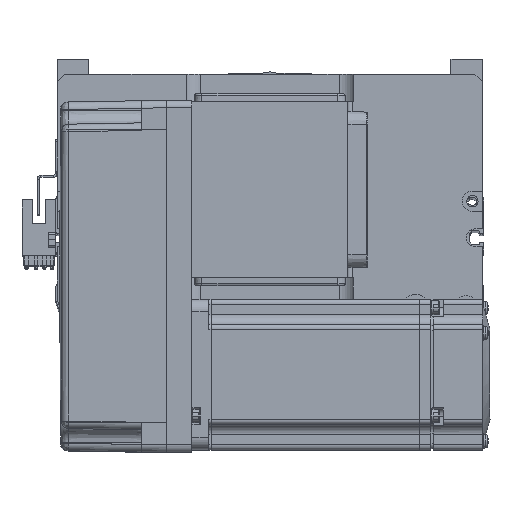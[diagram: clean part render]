
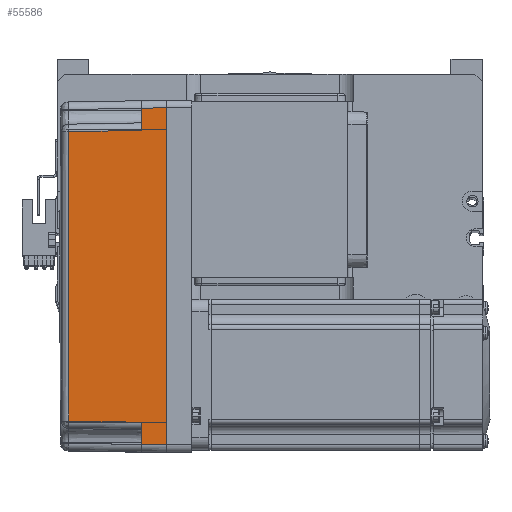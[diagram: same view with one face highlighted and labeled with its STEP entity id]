
A CAD part, top view. The second image highlights one B-rep face of the part: STEP entity #55586.
In plain terms, the highlighted planar face has unit normal (-0.018, 0, 1) as drawn and (0, -1, 0.017) by its records, which use the part's own axes.
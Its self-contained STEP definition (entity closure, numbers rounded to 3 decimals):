
#180 = VERTEX_POINT ( 'NONE', #2051 ) ;
#183 = CARTESIAN_POINT ( 'NONE',  ( 70., -35.825, 10. ) ) ;
#502 = EDGE_CURVE ( 'NONE', #51117, #20415, #5523, .T. ) ;
#701 = CARTESIAN_POINT ( 'NONE',  ( -19.165, -35.316, 39.181 ) ) ;
#2051 = CARTESIAN_POINT ( 'NONE',  ( -57.495, -35.32, 38.985 ) ) ;
#2182 = LINE ( 'NONE', #35607, #16303 ) ;
#3591 = EDGE_CURVE ( 'NONE', #41798, #51117, #38684, .T. ) ;
#3615 = VERTEX_POINT ( 'NONE', #51667 ) ;
#4750 = EDGE_CURVE ( 'NONE', #32443, #20415, #46712, .T. ) ;
#5523 = LINE ( 'NONE', #33133, #28531 ) ;
#6090 = CARTESIAN_POINT ( 'NONE',  ( 70., -35.825, 10. ) ) ;
#10465 = CARTESIAN_POINT ( 'NONE',  ( 57.495, -35.32, 38.985 ) ) ;
#11274 = CARTESIAN_POINT ( 'NONE',  ( 67., -36., 0. ) ) ;
#11442 = LINE ( 'NONE', #22060, #44841 ) ;
#12063 = DIRECTION ( 'NONE',  ( -0.017, -0.017, -1. ) ) ;
#12569 = AXIS2_PLACEMENT_3D ( 'NONE', #39771, #44365, #25445 ) ;
#13788 = ORIENTED_EDGE ( 'NONE', *, *, #58261, .T. ) ;
#16303 = VECTOR ( 'NONE', #46220, 1000. ) ;
#17653 = CARTESIAN_POINT ( 'NONE',  ( 0., -36., 0. ) ) ;
#17840 = VERTEX_POINT ( 'NONE', #46779 ) ;
#18031 = ORIENTED_EDGE ( 'NONE', *, *, #502, .F. ) ;
#18046 = EDGE_CURVE ( 'NONE', #180, #32443, #11442, .T. ) ;
#20415 = VERTEX_POINT ( 'NONE', #41417 ) ;
#20888 = ORIENTED_EDGE ( 'NONE', *, *, #40728, .T. ) ;
#22060 = CARTESIAN_POINT ( 'NONE',  ( -57.495, -35.32, 38.985 ) ) ;
#22083 = CARTESIAN_POINT ( 'NONE',  ( -67., -36., 0. ) ) ;
#22924 = ORIENTED_EDGE ( 'NONE', *, *, #3591, .F. ) ;
#24119 = VERTEX_POINT ( 'NONE', #45078 ) ;
#25445 = DIRECTION ( 'NONE',  ( 0., -0.017, -1. ) ) ;
#28531 = VECTOR ( 'NONE', #60888, 1000. ) ;
#29526 = EDGE_CURVE ( 'NONE', #17840, #180, #40008, .T. ) ;
#32306 = ORIENTED_EDGE ( 'NONE', *, *, #38146, .T. ) ;
#32443 = VERTEX_POINT ( 'NONE', #33026 ) ;
#33026 = CARTESIAN_POINT ( 'NONE',  ( -58., -35.825, 10. ) ) ;
#33133 = CARTESIAN_POINT ( 'NONE',  ( -66.959, -35.958, 2.39 ) ) ;
#33991 = VECTOR ( 'NONE', #48158, 1000. ) ;
#34474 = VECTOR ( 'NONE', #45976, 1000. ) ;
#35607 = CARTESIAN_POINT ( 'NONE',  ( 67., -36., 0. ) ) ;
#37032 = CARTESIAN_POINT ( 'NONE',  ( 58., -35.825, 10. ) ) ;
#38146 = EDGE_CURVE ( 'NONE', #3615, #24119, #59189, .T. ) ;
#38684 = LINE ( 'NONE', #17653, #41650 ) ;
#38872 = CARTESIAN_POINT ( 'NONE',  ( 19.165, -35.316, 39.181 ) ) ;
#39110 = DIRECTION ( 'NONE',  ( -1., 0., 0. ) ) ;
#39771 = CARTESIAN_POINT ( 'NONE',  ( 70., -36., 0. ) ) ;
#40008 = B_SPLINE_CURVE_WITH_KNOTS ( 'NONE', 3,
 ( #10465, #38872, #701, #43666 ),
 .UNSPECIFIED., .F., .F.,
 ( 4, 4 ),
 ( 0., 1. ),
 .UNSPECIFIED. ) ;
#40728 = EDGE_CURVE ( 'NONE', #24119, #17840, #42713, .T. ) ;
#41417 = CARTESIAN_POINT ( 'NONE',  ( -66.826, -35.825, 10. ) ) ;
#41650 = VECTOR ( 'NONE', #46278, 1000. ) ;
#41798 = VERTEX_POINT ( 'NONE', #11274 ) ;
#42101 = EDGE_LOOP ( 'NONE', ( #13788, #32306, #20888, #54018, #52464, #51239, #18031, #22924 ) ) ;
#42713 = LINE ( 'NONE', #37032, #34474 ) ;
#43666 = CARTESIAN_POINT ( 'NONE',  ( -57.495, -35.32, 38.985 ) ) ;
#44365 = DIRECTION ( 'NONE',  ( 0., -1., 0.017 ) ) ;
#44841 = VECTOR ( 'NONE', #12063, 1000. ) ;
#45078 = CARTESIAN_POINT ( 'NONE',  ( 58., -35.825, 10. ) ) ;
#45976 = DIRECTION ( 'NONE',  ( -0.017, 0.017, 1. ) ) ;
#46220 = DIRECTION ( 'NONE',  ( -0.017, 0.017, 1. ) ) ;
#46278 = DIRECTION ( 'NONE',  ( -1., 0., 0. ) ) ;
#46712 = LINE ( 'NONE', #6090, #48183 ) ;
#46779 = CARTESIAN_POINT ( 'NONE',  ( 57.495, -35.32, 38.985 ) ) ;
#48158 = DIRECTION ( 'NONE',  ( -1., 0., 0. ) ) ;
#48183 = VECTOR ( 'NONE', #39110, 1000. ) ;
#51117 = VERTEX_POINT ( 'NONE', #22083 ) ;
#51239 = ORIENTED_EDGE ( 'NONE', *, *, #4750, .T. ) ;
#51667 = CARTESIAN_POINT ( 'NONE',  ( 66.826, -35.825, 10. ) ) ;
#52464 = ORIENTED_EDGE ( 'NONE', *, *, #18046, .T. ) ;
#54018 = ORIENTED_EDGE ( 'NONE', *, *, #29526, .T. ) ;
#54070 = PLANE ( 'NONE',  #12569 ) ;
#55586 = ADVANCED_FACE ( 'NONE', ( #56788 ), #54070, .T. ) ;
#56788 = FACE_OUTER_BOUND ( 'NONE', #42101, .T. ) ;
#58261 = EDGE_CURVE ( 'NONE', #41798, #3615, #2182, .T. ) ;
#59189 = LINE ( 'NONE', #183, #33991 ) ;
#60888 = DIRECTION ( 'NONE',  ( 0.017, 0.017, 1. ) ) ;
